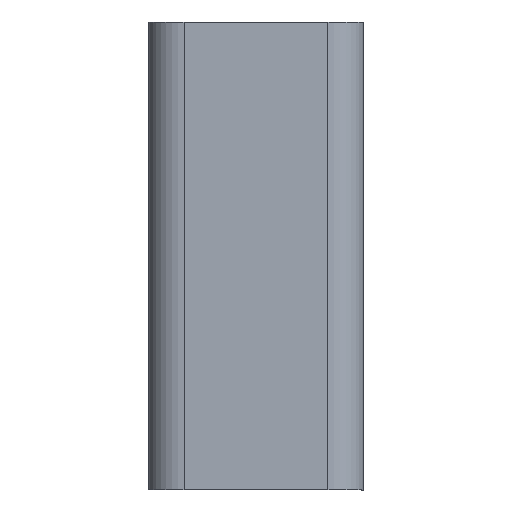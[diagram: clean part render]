
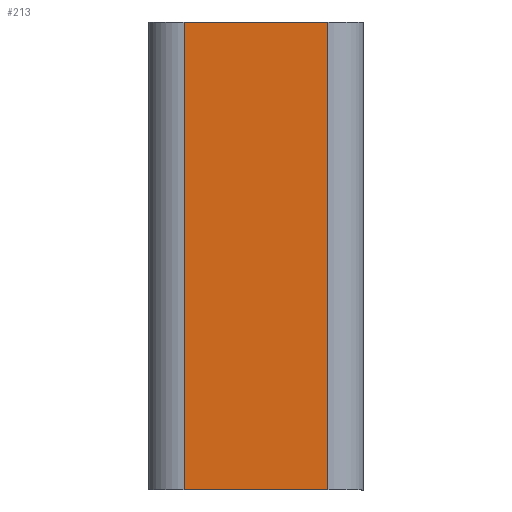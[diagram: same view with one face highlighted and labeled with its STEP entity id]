
A CAD part, left-side view. The second image highlights one B-rep face of the part: STEP entity #213.
In plain terms, the highlighted planar face has unit normal (-1, 0, 0).
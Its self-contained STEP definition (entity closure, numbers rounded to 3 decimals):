
#185 = VERTEX_POINT('',#186);
#186 = CARTESIAN_POINT('',(-225.,-5.,
    65.));
#193 = EDGE_CURVE('',#185,#194,#196,.T.);
#194 = VERTEX_POINT('',#195);
#195 = CARTESIAN_POINT('',(-225.,-25.,65.));
#196 = LINE('',#197,#198);
#197 = CARTESIAN_POINT('',(-225.,-25.,65.));
#198 = VECTOR('',#199,1.);
#199 = DIRECTION('',(0.,-1.,0.));
#213 = ADVANCED_FACE('',(#214),#239,.T.);
#214 = FACE_BOUND('',#215,.T.);
#215 = EDGE_LOOP('',(#216,#217,#225,#233));
#216 = ORIENTED_EDGE('',*,*,#193,.F.);
#217 = ORIENTED_EDGE('',*,*,#218,.T.);
#218 = EDGE_CURVE('',#185,#219,#221,.T.);
#219 = VERTEX_POINT('',#220);
#220 = CARTESIAN_POINT('',(-225.,-5.,
    0.));
#221 = LINE('',#222,#223);
#222 = CARTESIAN_POINT('',(-225.,-5.,
    65.));
#223 = VECTOR('',#224,1.);
#224 = DIRECTION('',(0.,0.,-1.));
#225 = ORIENTED_EDGE('',*,*,#226,.T.);
#226 = EDGE_CURVE('',#219,#227,#229,.T.);
#227 = VERTEX_POINT('',#228);
#228 = CARTESIAN_POINT('',(-225.,-25.,0.));
#229 = LINE('',#230,#231);
#230 = CARTESIAN_POINT('',(-225.,-25.,0.));
#231 = VECTOR('',#232,1.);
#232 = DIRECTION('',(0.,-1.,0.));
#233 = ORIENTED_EDGE('',*,*,#234,.T.);
#234 = EDGE_CURVE('',#227,#194,#235,.T.);
#235 = LINE('',#236,#237);
#236 = CARTESIAN_POINT('',(-225.,-25.,0.));
#237 = VECTOR('',#238,1.);
#238 = DIRECTION('',(0.,0.,1.));
#239 = PLANE('',#240);
#240 = AXIS2_PLACEMENT_3D('',#241,#242,#243);
#241 = CARTESIAN_POINT('',(-225.,-30.,65.));
#242 = DIRECTION('',(-1.,0.,0.));
#243 = DIRECTION('',(0.,1.,0.));
